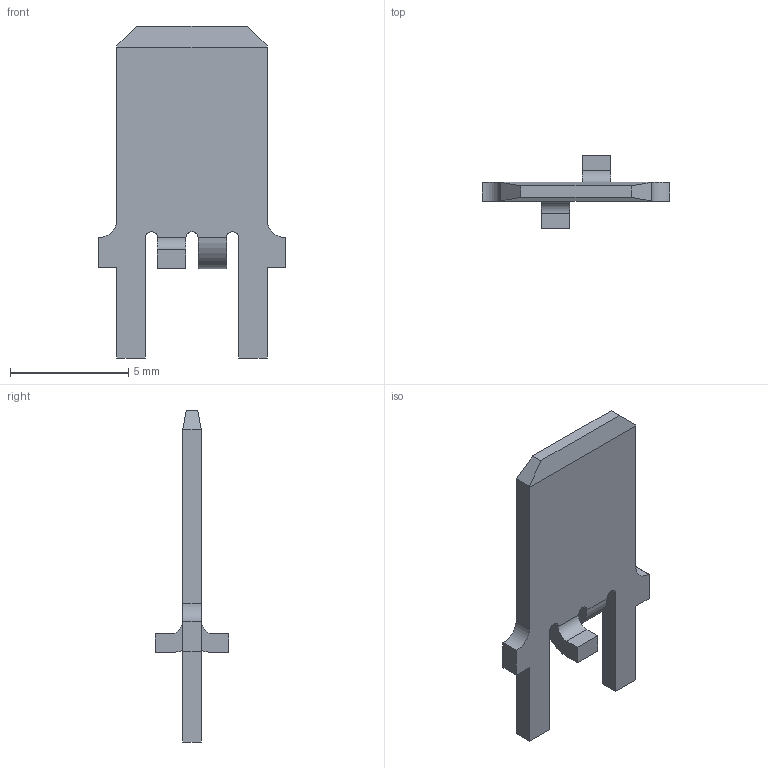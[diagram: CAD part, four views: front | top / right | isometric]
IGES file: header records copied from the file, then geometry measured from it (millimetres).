
Start section:  PTC IGES file: c-1742686-1-b-3d.igs
Global section: file name: c-1742686-1-b-3d.igs; native system: Creo Parametric by Parametric Technology Corporation; preprocessor: 2013050; author: workeradm; organization: Unknown; units: millimetre
Bounding box: 7.92 x 3.09 x 14.02 mm (x, y, z)
Surface area: 198 mm2 (no closed solid volume)
Topology: 0 solids, 0 shells, 40 faces, 212 edges, 212 vertices
Faces by surface type: bspline 31, revolution 9
